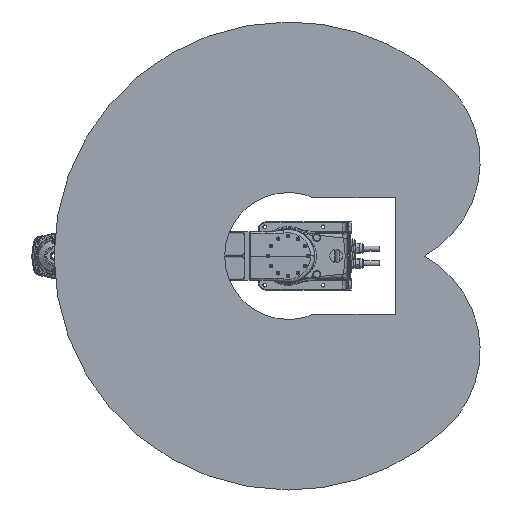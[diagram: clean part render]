
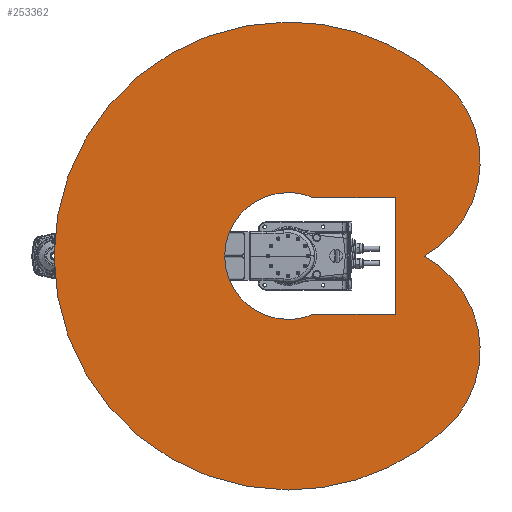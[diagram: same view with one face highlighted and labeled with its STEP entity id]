
A CAD part, front view. The second image highlights one B-rep face of the part: STEP entity #253362.
In plain terms, the highlighted planar face has unit normal (0, -1, 0).
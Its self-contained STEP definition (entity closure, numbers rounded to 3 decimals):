
#1444 = DIRECTION ( 'NONE',  ( 0., 0., 1. ) ) ;
#1836 = CIRCLE ( 'NONE', #179367, 162.628 ) ;
#2087 = ORIENTED_EDGE ( 'NONE', *, *, #321918, .F. ) ;
#3617 = EDGE_CURVE ( 'NONE', #244032, #9731, #43706, .T. ) ;
#7115 = PLANE ( 'NONE',  #166365 ) ;
#8163 = DIRECTION ( 'NONE',  ( 0., 0., 1. ) ) ;
#8286 = CARTESIAN_POINT ( 'NONE',  ( 275., -465., 150. ) ) ;
#9731 = VERTEX_POINT ( 'NONE', #175261 ) ;
#16446 = AXIS2_PLACEMENT_3D ( 'NONE', #119442, #294159, #144588 ) ;
#16816 = CARTESIAN_POINT ( 'NONE',  ( 0., -465., 600. ) ) ;
#24323 = CARTESIAN_POINT ( 'NONE',  ( 62.833, -465., 150. ) ) ;
#30972 = LINE ( 'NONE', #24323, #288832 ) ;
#43706 = LINE ( 'NONE', #60802, #176547 ) ;
#46484 = CARTESIAN_POINT ( 'NONE',  ( 62.833, -465., -150. ) ) ;
#46949 = VERTEX_POINT ( 'NONE', #301851 ) ;
#51391 = CIRCLE ( 'NONE', #16446, 162.628 ) ;
#59047 = DIRECTION ( 'NONE',  ( 0., 1., 0. ) ) ;
#60802 = CARTESIAN_POINT ( 'NONE',  ( 275., -465., -150. ) ) ;
#62862 = VERTEX_POINT ( 'NONE', #65461 ) ;
#64960 = ORIENTED_EDGE ( 'NONE', *, *, #105872, .T. ) ;
#65461 = CARTESIAN_POINT ( 'NONE',  ( 62.833, -465., -150. ) ) ;
#65584 = CIRCLE ( 'NONE', #314891, 275. ) ;
#68552 = EDGE_CURVE ( 'NONE', #255473, #46949, #254648, .T. ) ;
#79768 = FACE_BOUND ( 'NONE', #287773, .T. ) ;
#92812 = AXIS2_PLACEMENT_3D ( 'NONE', #307339, #157767, #8163 ) ;
#105872 = EDGE_CURVE ( 'NONE', #62862, #232179, #51391, .T. ) ;
#107951 = CIRCLE ( 'NONE', #210122, 162.628 ) ;
#109272 = AXIS2_PLACEMENT_3D ( 'NONE', #208598, #59047, #233638 ) ;
#109541 = CARTESIAN_POINT ( 'NONE',  ( 0., -465., 162.628 ) ) ;
#109600 = ORIENTED_EDGE ( 'NONE', *, *, #3617, .T. ) ;
#112107 = CARTESIAN_POINT ( 'NONE',  ( 0., -465., 0. ) ) ;
#112977 = CARTESIAN_POINT ( 'NONE',  ( 0., -465., 0. ) ) ;
#119442 = CARTESIAN_POINT ( 'NONE',  ( 0., -465., 0. ) ) ;
#132693 = CARTESIAN_POINT ( 'NONE',  ( 108.734, -465., -120.761 ) ) ;
#134098 = DIRECTION ( 'NONE',  ( 0., 1., 0. ) ) ;
#137231 = DIRECTION ( 'NONE',  ( 0., 0., 1. ) ) ;
#137768 = AXIS2_PLACEMENT_3D ( 'NONE', #283685, #134098, #308749 ) ;
#137857 = CIRCLE ( 'NONE', #137768, 600. ) ;
#138119 = DIRECTION ( 'NONE',  ( 0., 0., 1. ) ) ;
#141125 = CARTESIAN_POINT ( 'NONE',  ( 0., -465., -600. ) ) ;
#144588 = DIRECTION ( 'NONE',  ( 0., 0., 1. ) ) ;
#146184 = FACE_OUTER_BOUND ( 'NONE', #147302, .T. ) ;
#146373 = DIRECTION ( 'NONE',  ( 0., 1., 0. ) ) ;
#147302 = EDGE_LOOP ( 'NONE', ( #291625, #2087, #216266, #203998, #203901 ) ) ;
#148796 = DIRECTION ( 'NONE',  ( 1., 0., 0. ) ) ;
#151014 = DIRECTION ( 'NONE',  ( 0., 1., 0. ) ) ;
#157767 = DIRECTION ( 'NONE',  ( 0., 1., 0. ) ) ;
#157812 = DIRECTION ( 'NONE',  ( 0., 0., 1. ) ) ;
#158963 = EDGE_CURVE ( 'NONE', #232179, #196512, #107951, .T. ) ;
#159370 = CIRCLE ( 'NONE', #217173, 275. ) ;
#166365 = AXIS2_PLACEMENT_3D ( 'NONE', #132693, #307380, #157812 ) ;
#175261 = CARTESIAN_POINT ( 'NONE',  ( 275., -465., -150. ) ) ;
#175326 = VERTEX_POINT ( 'NONE', #290908 ) ;
#176547 = VECTOR ( 'NONE', #261610, 1000. ) ;
#177291 = ORIENTED_EDGE ( 'NONE', *, *, #276725, .T. ) ;
#179367 = AXIS2_PLACEMENT_3D ( 'NONE', #112977, #287692, #138119 ) ;
#183831 = VECTOR ( 'NONE', #323703, 1000. ) ;
#191650 = LINE ( 'NONE', #46484, #183831 ) ;
#196512 = VERTEX_POINT ( 'NONE', #109541 ) ;
#203901 = ORIENTED_EDGE ( 'NONE', *, *, #231307, .F. ) ;
#203998 = ORIENTED_EDGE ( 'NONE', *, *, #302592, .F. ) ;
#208598 = CARTESIAN_POINT ( 'NONE',  ( 0., -465., 0. ) ) ;
#210122 = AXIS2_PLACEMENT_3D ( 'NONE', #112107, #286818, #137231 ) ;
#210899 = ORIENTED_EDGE ( 'NONE', *, *, #229729, .T. ) ;
#216266 = ORIENTED_EDGE ( 'NONE', *, *, #68552, .F. ) ;
#217173 = AXIS2_PLACEMENT_3D ( 'NONE', #300557, #151014, #1444 ) ;
#223091 = VERTEX_POINT ( 'NONE', #276650 ) ;
#229729 = EDGE_CURVE ( 'NONE', #196512, #223091, #1836, .T. ) ;
#231307 = EDGE_CURVE ( 'NONE', #315312, #252110, #137857, .T. ) ;
#232179 = VERTEX_POINT ( 'NONE', #232988 ) ;
#232988 = CARTESIAN_POINT ( 'NONE',  ( 0., -465., -162.628 ) ) ;
#233638 = DIRECTION ( 'NONE',  ( 0., 0., 1. ) ) ;
#244032 = VERTEX_POINT ( 'NONE', #8286 ) ;
#252110 = VERTEX_POINT ( 'NONE', #141125 ) ;
#252938 = ORIENTED_EDGE ( 'NONE', *, *, #158963, .T. ) ;
#253362 = ADVANCED_FACE ( 'NONE', ( #79768, #146184 ), #7115, .F. ) ;
#254648 = CIRCLE ( 'NONE', #92812, 600. ) ;
#255473 = VERTEX_POINT ( 'NONE', #16816 ) ;
#261610 = DIRECTION ( 'NONE',  ( 0., 0., -1. ) ) ;
#273093 = CIRCLE ( 'NONE', #109272, 600. ) ;
#276650 = CARTESIAN_POINT ( 'NONE',  ( 62.833, -465., 150. ) ) ;
#276725 = EDGE_CURVE ( 'NONE', #223091, #244032, #30972, .T. ) ;
#283685 = CARTESIAN_POINT ( 'NONE',  ( 0., -465., 0. ) ) ;
#286818 = DIRECTION ( 'NONE',  ( 0., 1., 0. ) ) ;
#287692 = DIRECTION ( 'NONE',  ( 0., 1., 0. ) ) ;
#287773 = EDGE_LOOP ( 'NONE', ( #289136, #64960, #252938, #210899, #177291, #109600 ) ) ;
#288625 = EDGE_CURVE ( 'NONE', #9731, #62862, #191650, .T. ) ;
#288832 = VECTOR ( 'NONE', #148796, 1000. ) ;
#289136 = ORIENTED_EDGE ( 'NONE', *, *, #288625, .T. ) ;
#290908 = CARTESIAN_POINT ( 'NONE',  ( 348.967, -465., 0. ) ) ;
#291625 = ORIENTED_EDGE ( 'NONE', *, *, #306600, .F. ) ;
#294159 = DIRECTION ( 'NONE',  ( 0., 1., 0. ) ) ;
#295948 = CARTESIAN_POINT ( 'NONE',  ( 217.467, -465., -241.522 ) ) ;
#300557 = CARTESIAN_POINT ( 'NONE',  ( 217.467, -465., 241.522 ) ) ;
#301851 = CARTESIAN_POINT ( 'NONE',  ( 401.478, -465., 445.887 ) ) ;
#302592 = EDGE_CURVE ( 'NONE', #252110, #255473, #273093, .T. ) ;
#306600 = EDGE_CURVE ( 'NONE', #175326, #315312, #65584, .T. ) ;
#307339 = CARTESIAN_POINT ( 'NONE',  ( 0., -465., 0. ) ) ;
#307380 = DIRECTION ( 'NONE',  ( 0., 1., 0. ) ) ;
#308749 = DIRECTION ( 'NONE',  ( 0., 0., 1. ) ) ;
#314891 = AXIS2_PLACEMENT_3D ( 'NONE', #295948, #146373, #321044 ) ;
#315286 = CARTESIAN_POINT ( 'NONE',  ( 401.478, -465., -445.887 ) ) ;
#315312 = VERTEX_POINT ( 'NONE', #315286 ) ;
#321044 = DIRECTION ( 'NONE',  ( 0., 0., 1. ) ) ;
#321918 = EDGE_CURVE ( 'NONE', #46949, #175326, #159370, .T. ) ;
#323703 = DIRECTION ( 'NONE',  ( -1., 0., 0. ) ) ;
